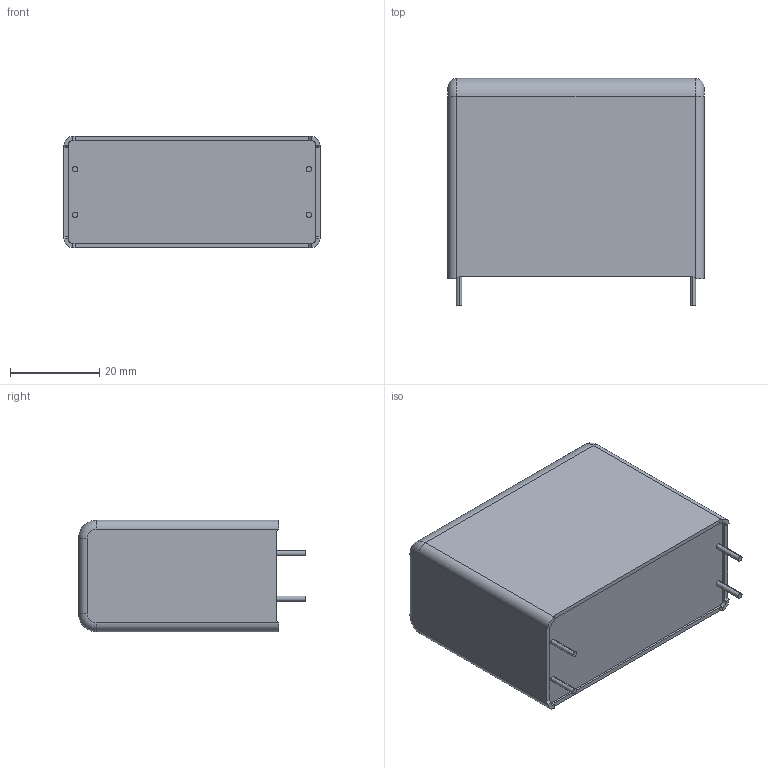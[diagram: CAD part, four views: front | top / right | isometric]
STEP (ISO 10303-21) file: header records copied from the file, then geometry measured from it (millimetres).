
FILE_DESCRIPTION (( 'STEP AP203' ), '1' );
FILE_NAME ('DC_Link_25x45x57.5_4pins10.2.step', '2017-04-03T15:59:58', ( 'work' ), ( 'Hewlett-Packard Company' ), 'SwSTEP 2.0', 'SolidWorks 2017', '' );
FILE_SCHEMA (( 'CONFIG_CONTROL_DESIGN' ));
Length unit declared in the file: millimetre
Products named in the file (1): DC_Link_25x45x57.5_4pins10.2
Bounding box: 57.5 x 51 x 25 mm (x, y, z)
Volume: 62781.9 mm3; surface area: 10007.9 mm2
Topology: 1 solids, 1 shells, 122 faces, 303 edges, 194 vertices
Faces by surface type: plane 82, cylinder 20, bspline 16, torus 4
Entity records: 4348 total; most frequent: CARTESIAN_POINT 1444, ORIENTED_EDGE 606, DIRECTION 529, EDGE_CURVE 303, LINE 227, VECTOR 227, VERTEX_POINT 194, AXIS2_PLACEMENT_3D 151
